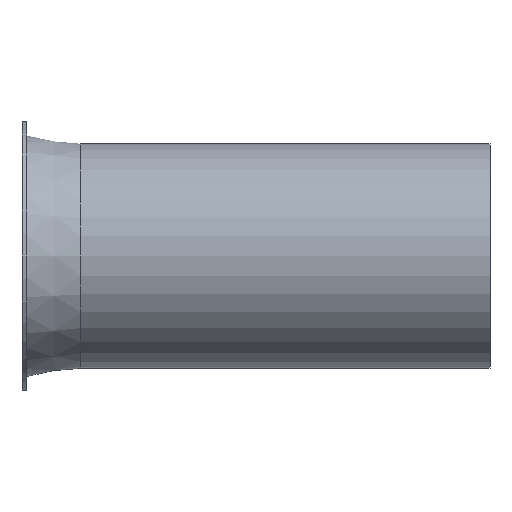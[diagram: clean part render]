
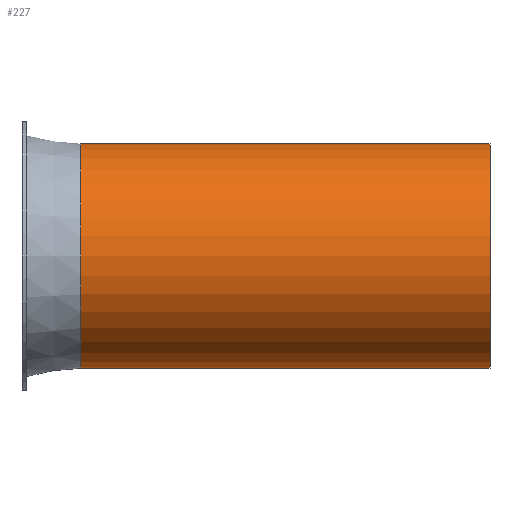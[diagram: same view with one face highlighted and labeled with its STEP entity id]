
A CAD part, front view. The second image highlights one B-rep face of the part: STEP entity #227.
In plain terms, the highlighted cylindrical face has radius 48 mm (diameter 96 mm), a full revolution.
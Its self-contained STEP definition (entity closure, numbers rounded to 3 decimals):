
#132=CARTESIAN_POINT('',(-2.081,46.334,0.0));
#133=VERTEX_POINT('',#132);
#134=CARTESIAN_POINT('',(-2.081,94.334,0.0));
#135=DIRECTION('',(-1.0,0.0,0.0));
#136=DIRECTION('',(0.0,-1.0,0.0));
#137=AXIS2_PLACEMENT_3D('',#134,#135,#136);
#138=CIRCLE('',#137,48.);
#139=EDGE_CURVE('',#133,#133,#138,.T.);
#201=CARTESIAN_POINT('',(172.919,46.334,0.0));
#202=VERTEX_POINT('',#201);
#203=CARTESIAN_POINT('',(172.919,94.334,0.0));
#204=DIRECTION('',(-1.0,0.0,0.0));
#205=DIRECTION('',(0.0,-1.0,0.0));
#206=AXIS2_PLACEMENT_3D('',#203,#204,#205);
#207=CIRCLE('',#206,48.);
#208=EDGE_CURVE('',#202,#202,#207,.T.);
#216=CARTESIAN_POINT('',(85.419,94.334,0.0));
#217=DIRECTION('',(-1.0,0.,0.0));
#218=DIRECTION('',(0.0,-1.0,0.0));
#219=AXIS2_PLACEMENT_3D('',#216,#217,#218);
#220=CYLINDRICAL_SURFACE('',#219,48.);
#221=ORIENTED_EDGE('',*,*,#139,.F.);
#222=EDGE_LOOP('',(#221));
#223=FACE_OUTER_BOUND('',#222,.T.);
#224=ORIENTED_EDGE('',*,*,#208,.T.);
#225=EDGE_LOOP('',(#224));
#226=FACE_BOUND('',#225,.T.);
#227=ADVANCED_FACE('',(#223,#226),#220,.T.);
